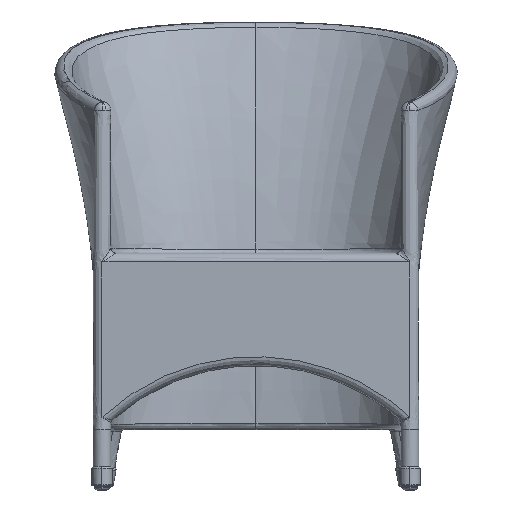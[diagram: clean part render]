
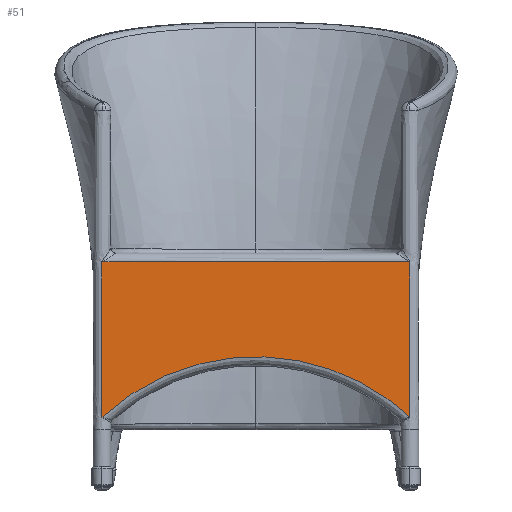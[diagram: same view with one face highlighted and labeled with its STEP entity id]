
A CAD part, front view. The second image highlights one B-rep face of the part: STEP entity #51.
In plain terms, the highlighted planar face has unit normal (0, -1, 0).
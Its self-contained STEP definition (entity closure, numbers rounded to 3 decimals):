
#51=ADVANCED_FACE('',(#202),#2141,.T.);
#202=FACE_OUTER_BOUND('',#353,.T.);
#353=EDGE_LOOP('',(#610,#611,#612,#613));
#610=ORIENTED_EDGE('',*,*,#1269,.F.);
#611=ORIENTED_EDGE('',*,*,#1270,.T.);
#612=ORIENTED_EDGE('',*,*,#1271,.T.);
#613=ORIENTED_EDGE('',*,*,#1276,.T.);
#1269=EDGE_CURVE('',#1979,#1980,#1608,.T.);
#1270=EDGE_CURVE('',#1979,#2002,#1609,.T.);
#1271=EDGE_CURVE('',#2002,#2003,#1610,.T.);
#1276=EDGE_CURVE('',#2003,#1980,#1761,.T.);
#1608=B_SPLINE_CURVE_WITH_KNOTS('',1,(#32334,#32335),.UNSPECIFIED.,.F.,
 .F.,(2,2),(0.,262.149),.UNSPECIFIED.);
#1609=B_SPLINE_CURVE_WITH_KNOTS('',1,(#32336,#32337),.UNSPECIFIED.,.F.,
 .F.,(2,2),(0.,520.),.UNSPECIFIED.);
#1610=B_SPLINE_CURVE_WITH_KNOTS('',1,(#32338,#32339),.UNSPECIFIED.,.F.,
 .F.,(2,2),(0.,262.149),.UNSPECIFIED.);
#1761=(
BOUNDED_CURVE()
B_SPLINE_CURVE(2,(#32490,#32491,#32492),.UNSPECIFIED.,.F.,.F.)
B_SPLINE_CURVE_WITH_KNOTS((3,3),(0.,571.959),.UNSPECIFIED.)
CURVE()
GEOMETRIC_REPRESENTATION_ITEM()
RATIONAL_B_SPLINE_CURVE((1.,0.733,1.))
REPRESENTATION_ITEM('')
);
#1979=VERTEX_POINT('',#30212);
#1980=VERTEX_POINT('',#30213);
#2002=VERTEX_POINT('',#30235);
#2003=VERTEX_POINT('',#30236);
#2141=PLANE('',#2301);
#2301=AXIS2_PLACEMENT_3D('',#10463,#2331,$);
#2331=DIRECTION('',(0.,-1.,0.));
#10463=CARTESIAN_POINT('',(-312.001,-610.,411.216));
#30212=CARTESIAN_POINT('',(260.,-610.,385.));
#30213=CARTESIAN_POINT('',(260.,-610.,122.851));
#30235=CARTESIAN_POINT('',(-260.,-610.,385.));
#30236=CARTESIAN_POINT('',(-260.,-610.,122.851));
#32334=CARTESIAN_POINT('',(260.,-610.,385.));
#32335=CARTESIAN_POINT('',(260.,-610.,122.851));
#32336=CARTESIAN_POINT('',(260.,-610.,385.));
#32337=CARTESIAN_POINT('',(-260.,-610.,385.));
#32338=CARTESIAN_POINT('',(-260.,-610.,385.));
#32339=CARTESIAN_POINT('',(-260.,-610.,122.851));
#32490=CARTESIAN_POINT('',(-260.,-610.,122.851));
#32491=CARTESIAN_POINT('',(0.,-610.,364.44));
#32492=CARTESIAN_POINT('',(260.,-610.,122.851));
